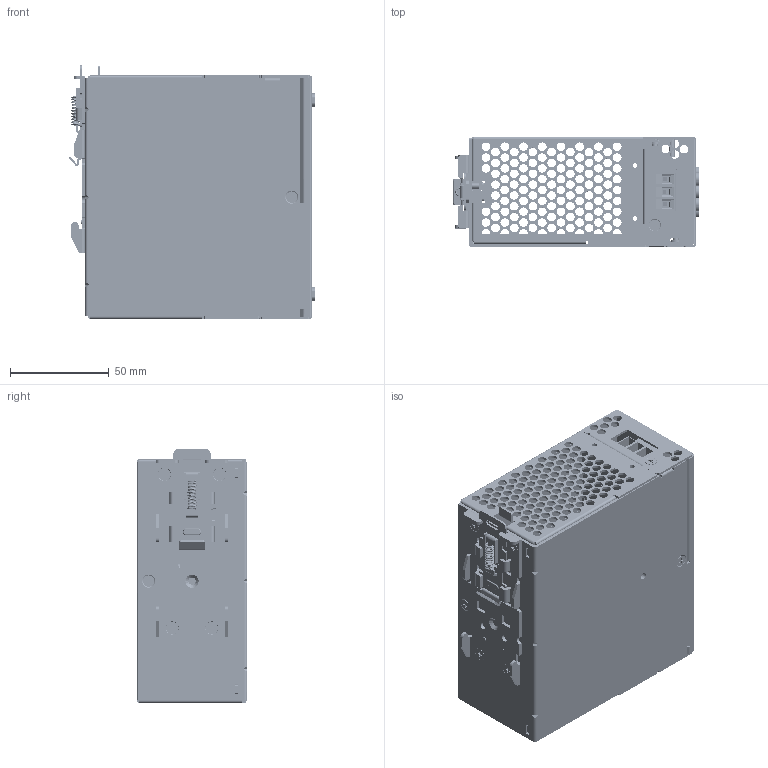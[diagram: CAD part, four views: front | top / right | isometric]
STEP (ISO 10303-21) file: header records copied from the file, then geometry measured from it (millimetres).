
FILE_DESCRIPTION((''),'2;1');
FILE_NAME('117-DRF-XXV480W1PBA_A_SW0001','2026-04-29T16:32:26',('leo.yen'),(''),'CREO PARAMETRIC BY PTC INC, 2024014','CREO PARAMETRIC BY PTC INC, 2024014','');
FILE_SCHEMA(('CONFIG_CONTROL_DESIGN','GEOMETRIC_VALIDATION_PROPERTIES_MIM'));
Products named in the file (1): 117-DRF-XXV480W1PBA_A_SW0001
Bounding box: 125.14 x 56 x 128.8 mm (x, y, z)
Volume: 114578.5 mm3; surface area: 173898.7 mm2
Topology: 1 solids, 1 shells, 6922 faces, 19656 edges, 12590 vertices
Faces by surface type: plane 4048, cylinder 2332, bspline 171, cone 136, torus 108, sphere 80, extrusion 47
Entity records: 350079 total; most frequent: CARTESIAN_POINT 85793, ORIENTED_EDGE 39100, DIRECTION 36407, EDGE_CURVE 19550, FILL_AREA_STYLE_COLOUR 13567, FILL_AREA_STYLE 13567, SURFACE_STYLE_FILL_AREA 13567, SURFACE_SIDE_STYLE 13567
